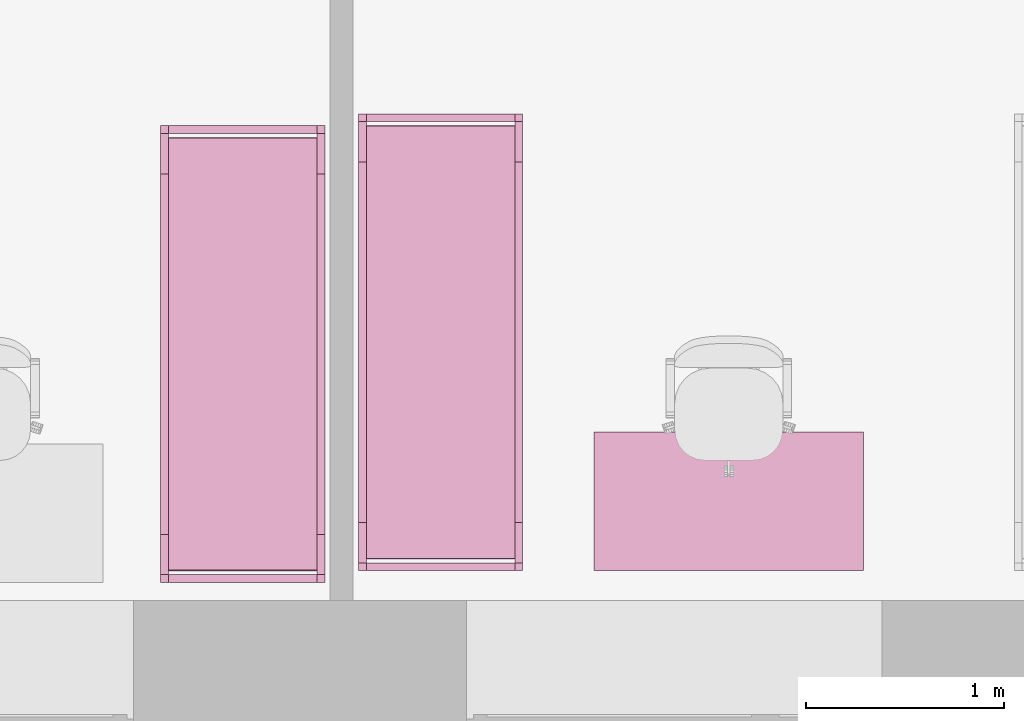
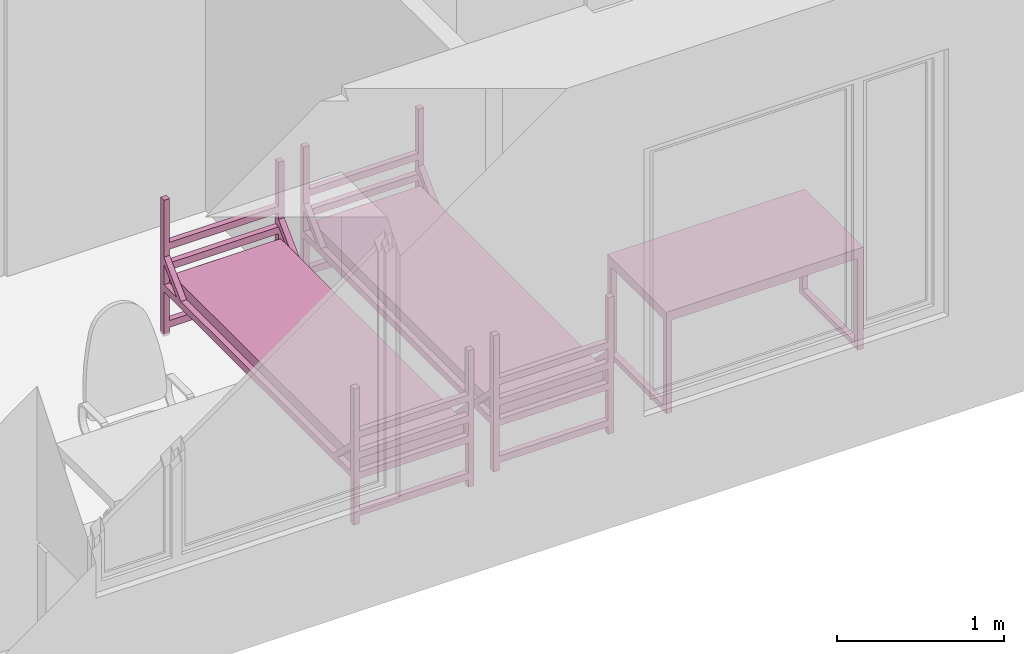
# One storey, part 25 of 48: 3 furnishings.
"""IFC2X3 building model written with IfcOpenShell, lengths in millimetres."""

from ifc_helpers import new_model, entity, si_unit, converted_unit, derived_unit, direction, frame, frame_2d, origin, origin_2d_with_axis, place, context, subcontext, project, spatial, polyline, circle_curve, parameter, trimmed, segment, composite_curve, rectangle, outline, extrude, faceted_brep, source, transform, mapped, material, material_list, type_object, type_shapes, element, save


model = new_model("IFC2X3")

# Units and contexts
model_context = context("Model", 3, precision=0.01, world=origin(), true_north=direction((6.12303176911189e-17, 1.0)))
body_context = subcontext(model_context, "Body", "Model", "MODEL_VIEW")
ifc_project = project(units=[si_unit("LENGTHUNIT", "METRE", prefix="MILLI"), si_unit("AREAUNIT", "SQUARE_METRE"), si_unit("VOLUMEUNIT", "CUBIC_METRE"), converted_unit("PLANEANGLEUNIT", "DEGREE", entity("IfcRatioMeasure", 0.0174532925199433), si_unit("PLANEANGLEUNIT", "RADIAN"), dimensions=[0, 0, 0, 0, 0, 0, 0]), si_unit("MASSUNIT", "GRAM", prefix="KILO"), derived_unit("MASSDENSITYUNIT", [(si_unit("MASSUNIT", "GRAM", prefix="KILO"), 1), (si_unit("LENGTHUNIT", "METRE"), -3)]), si_unit("TIMEUNIT", "SECOND"), si_unit("FREQUENCYUNIT", "HERTZ"), si_unit("THERMODYNAMICTEMPERATUREUNIT", "DEGREE_CELSIUS"), derived_unit("THERMALTRANSMITTANCEUNIT", [(si_unit("MASSUNIT", "GRAM", prefix="KILO"), 1), (si_unit("THERMODYNAMICTEMPERATUREUNIT", "KELVIN"), -1), (si_unit("TIMEUNIT", "SECOND"), -3)]), derived_unit("VOLUMETRICFLOWRATEUNIT", [(si_unit("LENGTHUNIT", "METRE"), 3), (si_unit("TIMEUNIT", "SECOND"), -1)]), si_unit("ELECTRICCURRENTUNIT", "AMPERE"), si_unit("ELECTRICVOLTAGEUNIT", "VOLT"), si_unit("POWERUNIT", "WATT"), si_unit("FORCEUNIT", "NEWTON", prefix="KILO"), si_unit("ILLUMINANCEUNIT", "LUX"), si_unit("LUMINOUSFLUXUNIT", "LUMEN"), si_unit("LUMINOUSINTENSITYUNIT", "CANDELA"), derived_unit("USERDEFINED", [(si_unit("MASSUNIT", "GRAM", prefix="KILO"), -1), (si_unit("LENGTHUNIT", "METRE"), -2), (si_unit("TIMEUNIT", "SECOND"), 3), (si_unit("LUMINOUSFLUXUNIT", "LUMEN"), 1)]), derived_unit("LINEARVELOCITYUNIT", [(si_unit("LENGTHUNIT", "METRE"), 1), (si_unit("TIMEUNIT", "SECOND"), -1)]), si_unit("PRESSUREUNIT", "PASCAL"), derived_unit("USERDEFINED", [(si_unit("LENGTHUNIT", "METRE"), -2), (si_unit("MASSUNIT", "GRAM", prefix="KILO"), 1), (si_unit("TIMEUNIT", "SECOND"), -2)]), derived_unit("LINEARFORCEUNIT", [(si_unit("MASSUNIT", "GRAM", prefix="KILO"), 1), (si_unit("LENGTHUNIT", "METRE"), 1), (si_unit("TIMEUNIT", "SECOND"), -2), (si_unit("LENGTHUNIT", "METRE"), -1)]), derived_unit("PLANARFORCEUNIT", [(si_unit("MASSUNIT", "GRAM", prefix="KILO"), 1), (si_unit("LENGTHUNIT", "METRE"), 1), (si_unit("TIMEUNIT", "SECOND"), -2), (si_unit("LENGTHUNIT", "METRE"), -2)])], contexts=[model_context])

# Site, building, storey, space
site_placement = place(None, origin())
site = spatial("IfcSite", under=ifc_project, at=site_placement, Name="Default", CompositionType="ELEMENT")
building_placement = place(site_placement, origin())
building = spatial("IfcBuilding", under=site, at=building_placement, Name="SMA ARH", CompositionType="ELEMENT")
storey_placement = place(building_placement, frame((0.0, 0.0, 6600.0)))
storey = spatial("IfcBuildingStorey", under=building, at=storey_placement, Name="3 Korrus", CompositionType="ELEMENT", Elevation=6599.99999999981)
space_1_placement = place(storey_placement, origin())
space_1 = spatial("IfcSpace", under=storey, at=space_1_placement, Name="3-12", CompositionType="ELEMENT", InteriorOrExteriorSpace="INTERNAL")

# Furnishings
ifc_material_1 = material(Name="Madrats")
furniture_type_1 = type_object("IfcFurnitureType", Name="Kasarmu voodi ühekordne 2308x830:Kasarmu voodi ühekordne 2308x830", material=ifc_material_1)
shared_shape_1 = source(origin(), body_context, "Body", "SweptSolid", [
    extrude(rectangle(XDim=39.9999999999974, YDim=750.000000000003, at=frame_2d((-1.35003119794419e-13, -2.8421709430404e-14), x_axis=(1.0, 0.0))), frame((1.68638457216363, -1226.7969571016, 55.0), z_axis=(0.0, 0.0, 1.0), x_axis=(0.0, -1.0, 0.0)), (0.0, 0.0, 1.0), 49.9999999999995),
    extrude(rectangle(XDim=39.9999999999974, YDim=750.000000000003, at=frame_2d((-1.35003119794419e-13, -2.8421709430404e-14), x_axis=(1.0, 0.0))), frame((1.68638457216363, -1226.7969571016, 325.0), z_axis=(0.0, 0.0, 1.0), x_axis=(0.0, -1.0, 0.0)), (0.0, 0.0, 1.0), 49.9999999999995),
    extrude(rectangle(XDim=39.9999999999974, YDim=750.000000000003, at=frame_2d((-1.35003119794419e-13, -2.8421709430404e-14), x_axis=(1.0, 0.0))), frame((1.68638457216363, -1226.7969571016, 475.0), z_axis=(0.0, 0.0, 1.0), x_axis=(0.0, -1.0, 0.0)), (0.0, 0.0, 1.0), 49.9999999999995),
    extrude(rectangle(XDim=39.9999999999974, YDim=750.000000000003, at=frame_2d((-1.35003119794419e-13, -2.8421709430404e-14), x_axis=(1.0, 0.0))), frame((1.68638457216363, -1226.7969571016, 625.0), z_axis=(0.0, 0.0, 1.0), x_axis=(0.0, -1.0, 0.0)), (0.0, 0.0, 1.0), 50.0000000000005),
    extrude(rectangle(XDim=39.9999999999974, YDim=750.000000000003, at=frame_2d((1.35003119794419e-13, -2.8421709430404e-14), x_axis=(1.0, 0.0))), frame((1.68638457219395, 1041.2030428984, 55.0), z_axis=(0.0, 0.0, 1.0), x_axis=(0.0, -1.0, 0.0)), (0.0, 0.0, 1.0), 50.0000000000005),
    extrude(rectangle(XDim=39.9999999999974, YDim=750.000000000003, at=frame_2d((1.35003119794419e-13, -2.8421709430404e-14), x_axis=(1.0, 0.0))), frame((1.68638457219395, 1041.2030428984, 325.0), z_axis=(0.0, 0.0, 1.0), x_axis=(0.0, -1.0, 0.0)), (0.0, 0.0, 1.0), 50.0000000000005),
    extrude(rectangle(XDim=39.9999999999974, YDim=750.000000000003, at=frame_2d((1.35003119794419e-13, -2.8421709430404e-14), x_axis=(1.0, 0.0))), frame((1.68638457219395, 1041.2030428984, 475.0), z_axis=(0.0, 0.0, 1.0), x_axis=(0.0, -1.0, 0.0)), (0.0, 0.0, 1.0), 50.0000000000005),
    extrude(rectangle(XDim=39.9999999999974, YDim=750.000000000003, at=frame_2d((1.35003119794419e-13, -2.8421709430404e-14), x_axis=(1.0, 0.0))), frame((1.68638457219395, 1041.2030428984, 625.0), z_axis=(0.0, 0.0, 1.0), x_axis=(0.0, -1.0, 0.0)), (0.0, 0.0, 1.0), 49.9999999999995),
    extrude(outline(composite_curve([segment(trimmed(circle_curve(frame_2d((1085.0, -40.0), x_axis=(1.0, 0.0)), 10.0), [parameter(270.0)], [parameter(0.0)], True, "PARAMETER"), True, "CONTINUOUS"), segment(polyline([(1095.0, -40.0), (1095.0, 40.0)]), True, "CONTINUOUS"), segment(trimmed(circle_curve(frame_2d((1085.0, 40.0), x_axis=(1.0, 0.0)), 10.0), [parameter(0.0)], [parameter(90.0000000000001)], True, "PARAMETER"), True, "CONTINUOUS"), segment(polyline([(1085.0, 50.0), (-1085.0, 50.0)]), True, "CONTINUOUS"), segment(trimmed(circle_curve(frame_2d((-1085.0, 40.0), x_axis=(1.0, 0.0)), 10.0), [parameter(90.0000000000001)], [parameter(180.0)], True, "PARAMETER"), True, "CONTINUOUS"), segment(polyline([(-1095.0, 40.0), (-1095.0, -40.0)]), True, "CONTINUOUS"), segment(trimmed(circle_curve(frame_2d((-1085.0, -40.0), x_axis=(1.0, 0.0)), 10.0), [parameter(180.0)], [parameter(270.0)], True, "PARAMETER"), True, "CONTINUOUS"), segment(polyline([(-1085.0, -50.0), (1085.0, -50.0)]), True, "CONTINUOUS")], self_intersect=False)), frame((-373.313615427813, -92.7969571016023, 405.0), z_axis=(1.0, 0.0, 0.0), x_axis=(0.0, -1.0, 0.0)), (0.0, 0.0, 1.0), 750.000000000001),
    extrude(outline(polyline([(-1114.0, -100.0), (1114.0, -100.0), (1114.0, -50.0), (961.59199141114, -50.0), (1114.0, 100.0), (1114.0, 150.0), (910.789321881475, -50.0), (-910.789321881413, -50.0), (-1114.0, 150.0), (-1114.0, 100.0), (-961.591991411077, -50.0), (-1114.0, -50.0), (-1114.0, -100.0)])), frame((-413.313615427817, -92.7969571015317, 430.0), z_axis=(1.0, 0.0, 0.0), x_axis=(0.0, 1.0, 0.0)), (0.0, 0.0, 1.0), 39.9999999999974),
    extrude(outline(polyline([(-1114.0, -100.0), (1114.0, -100.0), (1114.0, -50.0), (961.591991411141, -50.0), (1114.0, 100.0), (1114.0, 150.0), (910.789321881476, -50.0), (-910.789321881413, -50.0), (-1114.0, 150.0), (-1114.0, 100.0), (-961.591991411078, -50.0), (-1114.0, -50.0), (-1114.0, -100.0)])), frame((376.686384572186, -92.796957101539, 430.0), z_axis=(1.0, 0.0, 0.0), x_axis=(0.0, 1.0, 0.0)), (0.0, 0.0, 1.0), 39.9999999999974),
    extrude(rectangle(XDim=39.9999999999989, YDim=39.9999999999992, at=frame_2d((-6.75015598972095e-14, 0.0), x_axis=(1.0, 0.0))), frame((396.686384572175, -1226.79695710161, 0.0), z_axis=(0.0, 0.0, 1.0), x_axis=(0.0, 1.0, 0.0)), (0.0, 0.0, 1.0), 995.0),
    extrude(rectangle(XDim=39.9999999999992, YDim=39.9999999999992, at=frame_2d((-1.35003119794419e-13, 0.0), x_axis=(1.0, 0.0))), frame((396.686384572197, 1041.20304289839, 0.0), z_axis=(0.0, 0.0, 1.0), x_axis=(0.0, 1.0, 0.0)), (0.0, 0.0, 1.0), 995.0),
    extrude(rectangle(XDim=40.0000000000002, YDim=39.9999999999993, at=frame_2d((-1.35003119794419e-13, 0.0), x_axis=(1.0, 0.0))), frame((-393.313615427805, 1041.2030428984, 0.0), z_axis=(0.0, 0.0, 1.0), x_axis=(0.0, 1.0, 0.0)), (0.0, 0.0, 1.0), 995.0),
    extrude(rectangle(XDim=39.9999999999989, YDim=39.9999999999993, at=frame_2d((-6.75015598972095e-14, 0.0), x_axis=(1.0, 0.0))), frame((-393.313615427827, -1226.7969571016, 0.0), z_axis=(0.0, 0.0, 1.0), x_axis=(0.0, 1.0, 0.0)), (0.0, 0.0, 1.0), 995.0),
])
type_shapes(furniture_type_1, [shared_shape_1])
furnishing_1_placement = place(space_1_placement, frame((12427.8136154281, 1396.7969571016, 0.0)))
element("IfcFurnishingElement", 1, at=furnishing_1_placement, inside=space_1, type_object=furniture_type_1, material=ifc_material_1, Name="Kasarmu voodi ühekordne 2308x830:Kasarmu voodi ühekordne 2308x830", ObjectType="Kasarmu voodi ühekordne 2308x830:Kasarmu voodi ühekordne 2308x830", context=body_context, shape_type="MappedRepresentation", body=[
    mapped(shared_shape_1, transform((0.0, 0.0, 0.0), scale=1.0)),
])
ifc_material_2 = material(Name="<Unnamed>")
ifc_material_list = material_list([ifc_material_2, ifc_material_2])
furniture_type_2 = type_object("IfcFurnitureType", Name="kirjutuslaud 1360x700mm:kirjutuslaud 1360x700mm", material=ifc_material_list)
shared_shape_2 = source(origin(), body_context, "Body", "Brep", [
    faceted_brep([(680.0, -350.0, 720.0), (680.0, 350.0, 720.0), (680.0, 350.0, 750.0), (680.0, -350.0, 750.0), (-680.0, -350.0, 720.0), (-680.0, -350.0, 750.0), (-680.0, 350.0, 750.0), (-680.0, 350.0, 720.0)], [[[0, 1, 2, 3]], [[4, 5, 6, 7]], [[1, 0, 4, 7]], [[2, 1, 7, 6]], [[3, 2, 6, 5]], [[0, 3, 5, 4]]]),
    faceted_brep([(-640.0, -310.0, 680.0), (-640.0, 310.0, 680.0), (-640.0, 310.0, 720.0), (-640.0, -310.0, 720.0), (-680.0, -350.0, 720.0), (-680.0, 350.0, 720.0), (-680.0, 350.0, 10.0), (-680.0, -350.0, 10.0), (-680.0, 310.0, 680.0), (-680.0, -310.0, 680.0), (-680.0, -310.0, 50.0), (-680.0, 310.0, 50.0), (-640.0, -350.0, 10.0), (-640.0, -350.0, 680.0), (640.0, -350.0, 680.0), (640.0, -350.0, 10.0), (680.0, -350.0, 10.0), (680.0, -350.0, 720.0), (-640.0, 350.0, 10.0), (680.0, 350.0, 720.0), (680.0, 350.0, 10.0), (640.0, 350.0, 10.0), (640.0, 350.0, 680.0), (-640.0, 350.0, 680.0), (640.0, 310.0, 720.0), (640.0, -310.0, 720.0), (-640.0, 310.0, 50.0), (-640.0, -310.0, 50.0), (640.0, -310.0, 680.0), (640.0, 310.0, 680.0), (680.0, 310.0, 680.0), (680.0, 310.0, 50.0), (680.0, -310.0, 50.0), (680.0, -310.0, 680.0), (640.0, -310.0, 50.0), (640.0, 310.0, 50.0)], [[[0, 1, 2, 3]], [[4, 5, 6, 7], [8, 9, 10, 11]], [[4, 7, 12, 13, 14, 15, 16, 17]], [[18, 12, 7, 6]], [[6, 5, 19, 20, 21, 22, 23, 18]], [[19, 5, 4, 17], [2, 24, 25, 3]], [[26, 1, 8, 11]], [[27, 26, 11, 10]], [[0, 27, 10, 9]], [[1, 0, 9, 8]], [[14, 13, 0, 28]], [[24, 2, 1, 29]], [[3, 25, 28, 0]], [[17, 16, 20, 19], [30, 31, 32, 33]], [[21, 15, 14, 28, 34, 35, 29, 22]], [[20, 16, 15, 21]], [[31, 30, 29, 35]], [[32, 31, 35, 34]], [[33, 32, 34, 28]], [[30, 33, 28, 29]], [[29, 28, 25, 24]], [[29, 1, 23, 22]], [[12, 18, 23, 1, 26, 27, 0, 13]]]),
    faceted_brep([(-663.729456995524, -270.466136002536, 0.0), (-659.847171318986, -269.955023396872, 0.0), (-655.964885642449, -270.466136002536, 0.0), (-652.347171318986, -271.964642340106, 0.0), (-649.240569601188, -274.348421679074, 0.0), (-646.85679026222, -277.455023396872, 0.0), (-645.35828392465, -281.072737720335, 0.0), (-644.847171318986, -284.955023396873, 0.0), (-645.35828392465, -288.83730907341, 0.0), (-646.85679026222, -292.455023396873, 0.0), (-649.240569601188, -295.561625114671, 0.0), (-652.347171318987, -297.945404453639, 0.0), (-655.964885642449, -299.443910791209, 0.0), (-659.847171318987, -299.955023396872, 0.0), (-663.729456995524, -299.443910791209, 0.0), (-667.347171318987, -297.945404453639, 0.0), (-670.453773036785, -295.561625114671, 0.0), (-672.837552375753, -292.455023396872, 0.0), (-674.336058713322, -288.83730907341, 0.0), (-674.847171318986, -284.955023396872, 0.0), (-674.336058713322, -281.072737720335, 0.0), (-672.837552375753, -277.455023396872, 0.0), (-670.453773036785, -274.348421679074, 0.0), (-667.347171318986, -271.964642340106, 0.0), (-655.964885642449, -299.443910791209, 10.0), (-652.347171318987, -297.945404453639, 10.0), (-649.240569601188, -295.561625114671, 10.0), (-646.85679026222, -292.455023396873, 10.0), (-645.35828392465, -288.83730907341, 10.0), (-644.847171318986, -284.955023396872, 10.0), (-645.35828392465, -281.072737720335, 10.0), (-646.85679026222, -277.455023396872, 10.0), (-649.240569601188, -274.348421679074, 10.0), (-652.347171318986, -271.964642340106, 10.0), (-655.964885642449, -270.466136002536, 10.0), (-659.847171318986, -269.955023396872, 10.0), (-663.729456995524, -270.466136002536, 10.0), (-667.347171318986, -271.964642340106, 10.0), (-670.453773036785, -274.348421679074, 10.0), (-672.837552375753, -277.455023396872, 10.0), (-674.336058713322, -281.072737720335, 10.0), (-674.847171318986, -284.955023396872, 10.0), (-674.336058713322, -288.83730907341, 10.0), (-672.837552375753, -292.455023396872, 10.0), (-670.453773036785, -295.561625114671, 10.0), (-667.347171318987, -297.945404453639, 10.0), (-663.729456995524, -299.443910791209, 10.0), (-659.847171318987, -299.955023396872, 10.0)], [[[0, 1, 2, 3, 4, 5, 6, 7, 8, 9, 10, 11, 12, 13, 14, 15, 16, 17, 18, 19, 20, 21, 22, 23]], [[24, 25, 26, 27, 28, 29, 30, 31, 32, 33, 34, 35, 36, 37, 38, 39, 40, 41, 42, 43, 44, 45, 46, 47]], [[18, 42, 41, 19]], [[17, 43, 42, 18]], [[45, 44, 16, 15]], [[17, 16, 44, 43]], [[46, 45, 15, 14]], [[47, 46, 14, 13]], [[12, 24, 47, 13]], [[11, 25, 24, 12]], [[27, 26, 10, 9]], [[11, 10, 26, 25]], [[28, 27, 9, 8]], [[29, 28, 8, 7]], [[6, 30, 29, 7]], [[5, 31, 30, 6]], [[33, 32, 4, 3]], [[5, 4, 32, 31]], [[34, 33, 3, 2]], [[35, 34, 2, 1]], [[0, 36, 35, 1]], [[23, 37, 36, 0]], [[39, 38, 22, 21]], [[23, 22, 38, 37]], [[40, 39, 21, 20]], [[41, 40, 20, 19]]]),
    faceted_brep([(-655.964885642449, 270.466136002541, 10.0), (-652.347171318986, 271.964642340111, 10.0), (-649.240569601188, 274.348421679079, 10.0), (-646.85679026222, 277.455023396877, 10.0), (-645.35828392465, 281.07273772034, 10.0), (-644.847171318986, 284.955023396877, 10.0), (-645.35828392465, 288.837309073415, 10.0), (-646.85679026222, 292.455023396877, 10.0), (-649.240569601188, 295.561625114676, 10.0), (-652.347171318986, 297.945404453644, 10.0), (-655.964885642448, 299.443910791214, 10.0), (-659.847171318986, 299.955023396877, 10.0), (-663.729456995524, 299.443910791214, 10.0), (-667.347171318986, 297.945404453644, 10.0), (-670.453773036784, 295.561625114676, 10.0), (-672.837552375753, 292.455023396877, 10.0), (-674.336058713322, 288.837309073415, 10.0), (-674.847171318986, 284.955023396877, 10.0), (-674.336058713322, 281.07273772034, 10.0), (-672.837552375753, 277.455023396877, 10.0), (-670.453773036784, 274.348421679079, 10.0), (-667.347171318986, 271.964642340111, 10.0), (-663.729456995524, 270.466136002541, 10.0), (-659.847171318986, 269.955023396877, 10.0), (-655.964885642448, 299.443910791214, 0.0), (-652.347171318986, 297.945404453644, 0.0), (-649.240569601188, 295.561625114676, 0.0), (-646.85679026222, 292.455023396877, 0.0), (-645.35828392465, 288.837309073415, 0.0), (-644.847171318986, 284.955023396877, 0.0), (-645.35828392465, 281.07273772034, 0.0), (-646.85679026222, 277.455023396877, 0.0), (-649.240569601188, 274.348421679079, 0.0), (-652.347171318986, 271.964642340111, 0.0), (-655.964885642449, 270.466136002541, 0.0), (-659.847171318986, 269.955023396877, 0.0), (-663.729456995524, 270.466136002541, 0.0), (-667.347171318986, 271.964642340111, 0.0), (-670.453773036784, 274.348421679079, 0.0), (-672.837552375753, 277.455023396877, 0.0), (-674.336058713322, 281.07273772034, 0.0), (-674.847171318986, 284.955023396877, 0.0), (-674.336058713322, 288.837309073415, 0.0), (-672.837552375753, 292.455023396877, 0.0), (-670.453773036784, 295.561625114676, 0.0), (-667.347171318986, 297.945404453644, 0.0), (-663.729456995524, 299.443910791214, 0.0), (-659.847171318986, 299.955023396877, 0.0)], [[[0, 1, 2, 3, 4, 5, 6, 7, 8, 9, 10, 11, 12, 13, 14, 15, 16, 17, 18, 19, 20, 21, 22, 23]], [[24, 25, 26, 27, 28, 29, 30, 31, 32, 33, 34, 35, 36, 37, 38, 39, 40, 41, 42, 43, 44, 45, 46, 47]], [[40, 18, 17, 41]], [[39, 19, 18, 40]], [[21, 20, 38, 37]], [[39, 38, 20, 19]], [[22, 21, 37, 36]], [[23, 22, 36, 35]], [[34, 0, 23, 35]], [[33, 1, 0, 34]], [[3, 2, 32, 31]], [[33, 32, 2, 1]], [[4, 3, 31, 30]], [[5, 4, 30, 29]], [[28, 6, 5, 29]], [[27, 7, 6, 28]], [[9, 8, 26, 25]], [[27, 26, 8, 7]], [[10, 9, 25, 24]], [[11, 10, 24, 47]], [[46, 12, 11, 47]], [[45, 13, 12, 46]], [[15, 14, 44, 43]], [[45, 44, 14, 13]], [[16, 15, 43, 42]], [[17, 16, 42, 41]]]),
    faceted_brep([(656.270543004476, -270.466136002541, 0.0), (660.152828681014, -269.955023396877, 0.0), (664.035114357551, -270.466136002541, 0.0), (667.652828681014, -271.96464234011, 0.0), (670.759430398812, -274.348421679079, 0.0), (673.14320973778, -277.455023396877, 0.0), (674.64171607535, -281.072737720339, 0.0), (675.152828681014, -284.955023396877, 0.0), (674.64171607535, -288.837309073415, 0.0), (673.14320973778, -292.455023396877, 0.0), (670.759430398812, -295.561625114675, 0.0), (667.652828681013, -297.945404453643, 0.0), (664.035114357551, -299.443910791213, 0.0), (660.152828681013, -299.955023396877, 0.0), (656.270543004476, -299.443910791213, 0.0), (652.652828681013, -297.945404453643, 0.0), (649.546226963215, -295.561625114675, 0.0), (647.162447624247, -292.455023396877, 0.0), (645.663941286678, -288.837309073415, 0.0), (645.152828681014, -284.955023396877, 0.0), (645.663941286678, -281.072737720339, 0.0), (647.162447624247, -277.455023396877, 0.0), (649.546226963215, -274.348421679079, 0.0), (652.652828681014, -271.96464234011, 0.0), (664.035114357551, -299.443910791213, 10.0), (667.652828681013, -297.945404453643, 10.0), (670.759430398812, -295.561625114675, 10.0), (673.14320973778, -292.455023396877, 10.0), (674.64171607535, -288.837309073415, 10.0), (675.152828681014, -284.955023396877, 10.0), (674.64171607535, -281.072737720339, 10.0), (673.14320973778, -277.455023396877, 10.0), (670.759430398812, -274.348421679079, 10.0), (667.652828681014, -271.96464234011, 10.0), (664.035114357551, -270.466136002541, 10.0), (660.152828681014, -269.955023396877, 10.0), (656.270543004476, -270.466136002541, 10.0), (652.652828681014, -271.96464234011, 10.0), (649.546226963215, -274.348421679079, 10.0), (647.162447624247, -277.455023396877, 10.0), (645.663941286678, -281.072737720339, 10.0), (645.152828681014, -284.955023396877, 10.0), (645.663941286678, -288.837309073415, 10.0), (647.162447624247, -292.455023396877, 10.0), (649.546226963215, -295.561625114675, 10.0), (652.652828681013, -297.945404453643, 10.0), (656.270543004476, -299.443910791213, 10.0), (660.152828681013, -299.955023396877, 10.0)], [[[0, 1, 2, 3, 4, 5, 6, 7, 8, 9, 10, 11, 12, 13, 14, 15, 16, 17, 18, 19, 20, 21, 22, 23]], [[24, 25, 26, 27, 28, 29, 30, 31, 32, 33, 34, 35, 36, 37, 38, 39, 40, 41, 42, 43, 44, 45, 46, 47]], [[18, 42, 41, 19]], [[17, 43, 42, 18]], [[45, 44, 16, 15]], [[17, 16, 44, 43]], [[46, 45, 15, 14]], [[47, 46, 14, 13]], [[12, 24, 47, 13]], [[11, 25, 24, 12]], [[27, 26, 10, 9]], [[11, 10, 26, 25]], [[28, 27, 9, 8]], [[29, 28, 8, 7]], [[6, 30, 29, 7]], [[5, 31, 30, 6]], [[33, 32, 4, 3]], [[5, 4, 32, 31]], [[34, 33, 3, 2]], [[35, 34, 2, 1]], [[0, 36, 35, 1]], [[23, 37, 36, 0]], [[39, 38, 22, 21]], [[23, 22, 38, 37]], [[40, 39, 21, 20]], [[41, 40, 20, 19]]]),
    faceted_brep([(664.035114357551, 270.466136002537, 10.0), (667.652828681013, 271.964642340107, 10.0), (670.759430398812, 274.348421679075, 10.0), (673.14320973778, 277.455023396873, 10.0), (674.64171607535, 281.072737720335, 10.0), (675.152828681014, 284.955023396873, 10.0), (674.64171607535, 288.837309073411, 10.0), (673.14320973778, 292.455023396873, 10.0), (670.759430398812, 295.561625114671, 10.0), (667.652828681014, 297.94540445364, 10.0), (664.035114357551, 299.443910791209, 10.0), (660.152828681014, 299.955023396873, 10.0), (656.270543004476, 299.443910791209, 10.0), (652.652828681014, 297.94540445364, 10.0), (649.546226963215, 295.561625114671, 10.0), (647.162447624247, 292.455023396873, 10.0), (645.663941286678, 288.837309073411, 10.0), (645.152828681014, 284.955023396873, 10.0), (645.663941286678, 281.072737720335, 10.0), (647.162447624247, 277.455023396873, 10.0), (649.546226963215, 274.348421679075, 10.0), (652.652828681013, 271.964642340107, 10.0), (656.270543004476, 270.466136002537, 10.0), (660.152828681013, 269.955023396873, 10.0), (664.035114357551, 299.443910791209, 0.0), (667.652828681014, 297.94540445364, 0.0), (670.759430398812, 295.561625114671, 0.0), (673.14320973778, 292.455023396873, 0.0), (674.64171607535, 288.837309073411, 0.0), (675.152828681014, 284.955023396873, 0.0), (674.64171607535, 281.072737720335, 0.0), (673.14320973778, 277.455023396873, 0.0), (670.759430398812, 274.348421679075, 0.0), (667.652828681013, 271.964642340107, 0.0), (664.035114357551, 270.466136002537, 0.0), (660.152828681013, 269.955023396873, 0.0), (656.270543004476, 270.466136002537, 0.0), (652.652828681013, 271.964642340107, 0.0), (649.546226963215, 274.348421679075, 0.0), (647.162447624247, 277.455023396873, 0.0), (645.663941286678, 281.072737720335, 0.0), (645.152828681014, 284.955023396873, 0.0), (645.663941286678, 288.837309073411, 0.0), (647.162447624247, 292.455023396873, 0.0), (649.546226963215, 295.561625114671, 0.0), (652.652828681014, 297.94540445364, 0.0), (656.270543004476, 299.443910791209, 0.0), (660.152828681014, 299.955023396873, 0.0)], [[[0, 1, 2, 3, 4, 5, 6, 7, 8, 9, 10, 11, 12, 13, 14, 15, 16, 17, 18, 19, 20, 21, 22, 23]], [[24, 25, 26, 27, 28, 29, 30, 31, 32, 33, 34, 35, 36, 37, 38, 39, 40, 41, 42, 43, 44, 45, 46, 47]], [[40, 18, 17, 41]], [[39, 19, 18, 40]], [[21, 20, 38, 37]], [[39, 38, 20, 19]], [[22, 21, 37, 36]], [[23, 22, 36, 35]], [[34, 0, 23, 35]], [[33, 1, 0, 34]], [[3, 2, 32, 31]], [[33, 32, 2, 1]], [[4, 3, 31, 30]], [[5, 4, 30, 29]], [[28, 6, 5, 29]], [[27, 7, 6, 28]], [[9, 8, 26, 25]], [[27, 26, 8, 7]], [[10, 9, 25, 24]], [[11, 10, 24, 47]], [[46, 12, 11, 47]], [[45, 13, 12, 46]], [[15, 14, 44, 43]], [[45, 44, 14, 13]], [[16, 15, 43, 42]], [[17, 16, 42, 41]]]),
])
type_shapes(furniture_type_2, [shared_shape_2])
furnishing_2_placement = place(space_1_placement, frame((13885.5000000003, 500.0, 0.0)))
element("IfcFurnishingElement", 2, at=furnishing_2_placement, inside=space_1, type_object=furniture_type_2, Name="kirjutuslaud 1360x700mm:kirjutuslaud 1360x700mm", ObjectType="kirjutuslaud 1360x700mm:kirjutuslaud 1360x700mm", context=body_context, shape_type="MappedRepresentation", body=[
    mapped(shared_shape_2, transform((0.0, 0.0, 0.0), scale=1.0)),
])

# Space
space_2_placement = place(storey_placement, origin())
space_2 = spatial("IfcSpace", under=storey, at=space_2_placement, Name="3-13", CompositionType="ELEMENT", InteriorOrExteriorSpace="INTERNAL")

# Furnishing
furniture_type_3 = type_object("IfcFurnitureType", Name="Kasarmu voodi ühekordne 2308x830:Kasarmu voodi ühekordne 2308x830", material=ifc_material_1)
shared_shape_3 = source(origin(), body_context, "Body", "SweptSolid", [
    extrude(rectangle(XDim=750.000000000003, YDim=39.9999999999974, at=frame_2d((0.0, 1.35003119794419e-13), x_axis=(1.0, 0.0))), frame((1.68638457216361, 1226.7969571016, 55.0)), (0.0, 0.0, 1.0), 49.9999999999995),
    extrude(rectangle(XDim=750.000000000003, YDim=39.9999999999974, at=frame_2d((0.0, 1.35003119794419e-13), x_axis=(1.0, 0.0))), frame((1.68638457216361, 1226.7969571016, 325.0)), (0.0, 0.0, 1.0), 49.9999999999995),
    extrude(rectangle(XDim=750.000000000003, YDim=39.9999999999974, at=frame_2d((0.0, 1.35003119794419e-13), x_axis=(1.0, 0.0))), frame((1.68638457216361, 1226.7969571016, 475.0)), (0.0, 0.0, 1.0), 49.9999999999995),
    extrude(rectangle(XDim=750.000000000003, YDim=39.9999999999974, at=frame_2d((0.0, 1.35003119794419e-13), x_axis=(1.0, 0.0))), frame((1.68638457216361, 1226.7969571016, 625.0)), (0.0, 0.0, 1.0), 50.0000000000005),
    extrude(rectangle(XDim=750.000000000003, YDim=39.9999999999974, at=origin_2d_with_axis()), frame((1.68638457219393, -1041.2030428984, 55.0)), (0.0, 0.0, 1.0), 50.0000000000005),
    extrude(rectangle(XDim=750.000000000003, YDim=39.9999999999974, at=origin_2d_with_axis()), frame((1.68638457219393, -1041.2030428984, 325.0)), (0.0, 0.0, 1.0), 50.0000000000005),
    extrude(rectangle(XDim=750.000000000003, YDim=39.9999999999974, at=origin_2d_with_axis()), frame((1.68638457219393, -1041.2030428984, 475.0)), (0.0, 0.0, 1.0), 50.0000000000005),
    extrude(rectangle(XDim=750.000000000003, YDim=39.9999999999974, at=origin_2d_with_axis()), frame((1.68638457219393, -1041.2030428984, 625.0)), (0.0, 0.0, 1.0), 49.9999999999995),
    extrude(outline(composite_curve([segment(polyline([(-1085.0, -50.0), (1085.0, -50.0)]), True, "CONTINUOUS"), segment(trimmed(circle_curve(frame_2d((1085.0, -40.0), x_axis=(-1.0, 0.0)), 10.0), [parameter(90.0000000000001)], [parameter(180.0)], True, "PARAMETER"), True, "CONTINUOUS"), segment(polyline([(1095.0, -40.0), (1095.0, 40.0)]), True, "CONTINUOUS"), segment(trimmed(circle_curve(frame_2d((1085.0, 40.0), x_axis=(-1.0, 0.0)), 10.0), [parameter(180.0)], [parameter(270.0)], True, "PARAMETER"), True, "CONTINUOUS"), segment(polyline([(1085.0, 50.0), (-1085.0, 50.0)]), True, "CONTINUOUS"), segment(trimmed(circle_curve(frame_2d((-1085.0, 40.0), x_axis=(-1.0, 0.0)), 10.0), [parameter(270.0)], [parameter(0.0)], True, "PARAMETER"), True, "CONTINUOUS"), segment(polyline([(-1095.0, 40.0), (-1095.0, -40.0)]), True, "CONTINUOUS"), segment(trimmed(circle_curve(frame_2d((-1085.0, -40.0), x_axis=(-1.0, 0.0)), 10.0), [parameter(0.0)], [parameter(90.0000000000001)], True, "PARAMETER"), True, "CONTINUOUS")], self_intersect=False)), frame((-373.313615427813, 92.7969571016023, 405.0), z_axis=(1.0, 0.0, 0.0), x_axis=(0.0, -1.0, 0.0)), (0.0, 0.0, 1.0), 750.000000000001),
    extrude(outline(polyline([(-100.0, -1114.0), (-50.0, -1114.0), (-50.0, -961.591991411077), (100.0, -1114.0), (150.0, -1114.0), (-50.0, -910.789321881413), (-50.0, 910.789321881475), (150.0, 1114.0), (100.0, 1114.0), (-50.0, 961.591991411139), (-50.0, 1114.0), (-100.0, 1114.0), (-100.0, -1114.0)])), frame((-413.313615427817, 92.7969571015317, 430.0), z_axis=(1.0, 0.0, 0.0), x_axis=(0.0, 0.0, 1.0)), (0.0, 0.0, 1.0), 39.9999999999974),
    extrude(outline(polyline([(-100.0, -1114.0), (-50.0, -1114.0), (-50.0, -961.591991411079), (100.0, -1114.0), (150.0, -1114.0), (-50.0, -910.789321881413), (-50.0, 910.789321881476), (150.0, 1114.0), (100.0, 1114.0), (-50.0, 961.591991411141), (-50.0, 1114.0), (-100.0, 1114.0), (-100.0, -1114.0)])), frame((376.686384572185, 92.796957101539, 430.0), z_axis=(1.0, 0.0, 0.0), x_axis=(0.0, 0.0, 1.0)), (0.0, 0.0, 1.0), 39.9999999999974),
    extrude(rectangle(XDim=39.9999999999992, YDim=39.9999999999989, at=frame_2d((0.0, -6.75015598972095e-14), x_axis=(1.0, 0.0))), frame((396.686384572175, 1226.79695710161, 0.0), z_axis=(0.0, 0.0, 1.0), x_axis=(-1.0, 0.0, 0.0)), (0.0, 0.0, 1.0), 995.0),
    extrude(rectangle(XDim=39.9999999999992, YDim=39.9999999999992, at=origin_2d_with_axis()), frame((396.686384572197, -1041.20304289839, 0.0), z_axis=(0.0, 0.0, 1.0), x_axis=(-1.0, 0.0, 0.0)), (0.0, 0.0, 1.0), 995.0),
    extrude(rectangle(XDim=39.9999999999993, YDim=40.0000000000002, at=origin_2d_with_axis()), frame((-393.313615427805, -1041.2030428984, 0.0), z_axis=(0.0, 0.0, 1.0), x_axis=(-1.0, 0.0, 0.0)), (0.0, 0.0, 1.0), 995.0),
    extrude(rectangle(XDim=39.9999999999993, YDim=39.9999999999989, at=frame_2d((0.0, -6.75015598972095e-14), x_axis=(1.0, 0.0))), frame((-393.313615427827, 1226.7969571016, 0.0), z_axis=(0.0, 0.0, 1.0), x_axis=(-1.0, 0.0, 0.0)), (0.0, 0.0, 1.0), 995.0),
])
type_shapes(furniture_type_3, [shared_shape_3])
furnishing_3_placement = place(space_2_placement, frame((11432.1863845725, 1336.79695710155, 0.0), z_axis=(0.0, 0.0, 1.0), x_axis=(-1.0, 0.0, 0.0)))
element("IfcFurnishingElement", 3, at=furnishing_3_placement, inside=space_2, type_object=furniture_type_3, material=ifc_material_1, Name="Kasarmu voodi ühekordne 2308x830:Kasarmu voodi ühekordne 2308x830", ObjectType="Kasarmu voodi ühekordne 2308x830:Kasarmu voodi ühekordne 2308x830", context=body_context, shape_type="MappedRepresentation", body=[
    mapped(shared_shape_3, transform((0.0, 0.0, 0.0), scale=1.0)),
])

save(model, "model.ifc")
